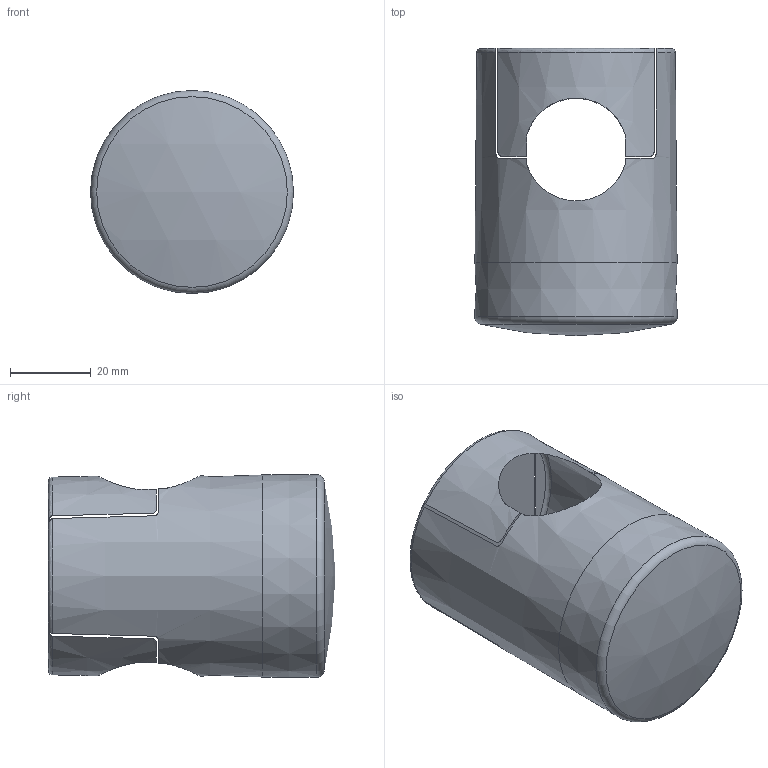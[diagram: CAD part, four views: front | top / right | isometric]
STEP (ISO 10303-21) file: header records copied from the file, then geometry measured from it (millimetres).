
FILE_DESCRIPTION(/* description */ (''),/* implementation_level */ '2;1');
FILE_NAME(/* name */ 'S:\UFFICIO TECNICO 2019\PRODOTTI ROTALIANA\SOUVLAKI\CONFIGURATORE\FILES X CONFIGURATORE\ipt INVENTOR\ASVSG_dispositivo gateway.stp',/* time_stamp */ '2024-03-13T10:25:46+01:00',/* author */ ('mtesta'),/* organization */ (''),/* preprocessor_version */ 'ST-DEVELOPER v18.1',/* originating_system */ 'Autodesk Inventor 2021',/* authorisation */ '');
FILE_SCHEMA (('AUTOMOTIVE_DESIGN { 1 0 10303 214 3 1 1 }'));
Length unit declared in the file: millimetre
Products named in the file (1): A2631
Bounding box: 50.23 x 71 x 50.23 mm (x, y, z)
Surface area: 13165.2 mm2 (no closed solid volume)
Topology: 0 solids, 3 shells, 13 faces, 82 edges, 71 vertices
Faces by surface type: torus 5, cone 4, plane 3, sphere 1
Entity records: 1155 total; most frequent: CARTESIAN_POINT 547, DIRECTION 98, ORIENTED_EDGE 96, EDGE_CURVE 82, VERTEX_POINT 71, AXIS2_PLACEMENT_3D 46, B_SPLINE_CURVE_WITH_KNOTS 36, CIRCLE 24
